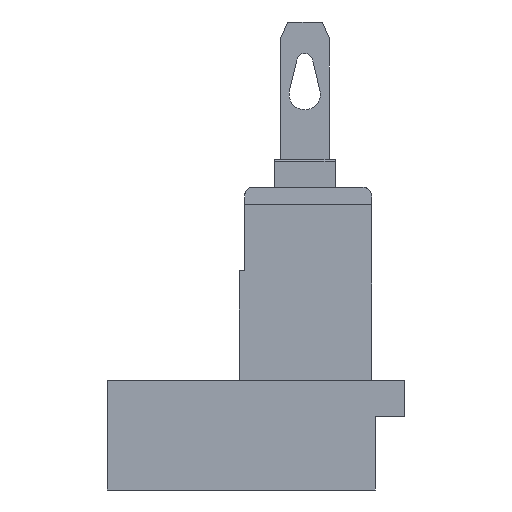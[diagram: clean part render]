
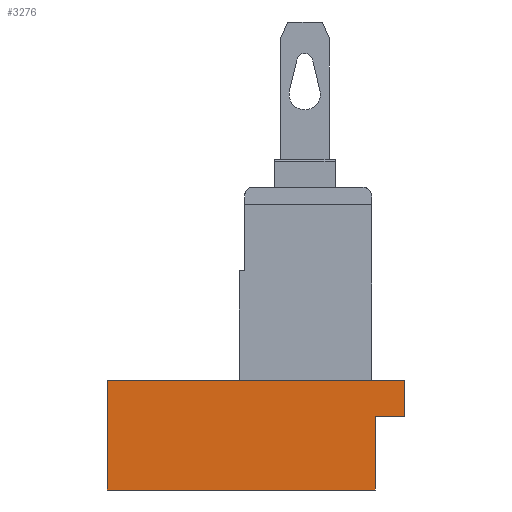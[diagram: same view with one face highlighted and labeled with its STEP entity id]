
A CAD part, left-side view. The second image highlights one B-rep face of the part: STEP entity #3276.
In plain terms, the highlighted planar face has unit normal (-1, 0, 0).
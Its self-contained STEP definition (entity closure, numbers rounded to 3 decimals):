
#3276 = ADVANCED_FACE('',(#3277),#3291,.T.);
#3277 = FACE_BOUND('',#3278,.T.);
#3278 = EDGE_LOOP('',(#3279,#3302,#3318,#3334,#3350,#3366));
#3279 = ORIENTED_EDGE('',*,*,#3280,.T.);
#3280 = EDGE_CURVE('',#3281,#3283,#3285,.T.);
#3281 = VERTEX_POINT('',#3282);
#3282 = CARTESIAN_POINT('',(0.,0.,0.));
#3283 = VERTEX_POINT('',#3284);
#3284 = CARTESIAN_POINT('',(0.,0.,4.2));
#3285 = SURFACE_CURVE('',#3286,(#3290),.PCURVE_S1.);
#3286 = LINE('',#3287,#3288);
#3287 = CARTESIAN_POINT('',(0.,0.,0.));
#3288 = VECTOR('',#3289,1.);
#3289 = DIRECTION('',(0.,0.,1.));
#3290 = PCURVE('',#3291,#3296);
#3291 = PLANE('',#3292);
#3292 = AXIS2_PLACEMENT_3D('',#3293,#3294,#3295);
#3293 = CARTESIAN_POINT('',(0.,24.099,-12.6));
#3294 = DIRECTION('',(-1.,0.,0.));
#3295 = DIRECTION('',(0.,-1.,0.));
#3296 = DEFINITIONAL_REPRESENTATION('',(#3297),#3301);
#3297 = LINE('',#3298,#3299);
#3298 = CARTESIAN_POINT('',(24.099,12.6));
#3299 = VECTOR('',#3300,1.);
#3300 = DIRECTION('',(0.,1.));
#3301 = ( GEOMETRIC_REPRESENTATION_CONTEXT(2) 
PARAMETRIC_REPRESENTATION_CONTEXT() REPRESENTATION_CONTEXT('2D SPACE',''
  ) );
#3302 = ORIENTED_EDGE('',*,*,#3303,.T.);
#3303 = EDGE_CURVE('',#3283,#3304,#3306,.T.);
#3304 = VERTEX_POINT('',#3305);
#3305 = CARTESIAN_POINT('',(0.,-1.7,4.2));
#3306 = SURFACE_CURVE('',#3307,(#3311),.PCURVE_S1.);
#3307 = LINE('',#3308,#3309);
#3308 = CARTESIAN_POINT('',(0.,0.,4.2));
#3309 = VECTOR('',#3310,1.);
#3310 = DIRECTION('',(0.,-1.,0.));
#3311 = PCURVE('',#3291,#3312);
#3312 = DEFINITIONAL_REPRESENTATION('',(#3313),#3317);
#3313 = LINE('',#3314,#3315);
#3314 = CARTESIAN_POINT('',(24.099,16.8));
#3315 = VECTOR('',#3316,1.);
#3316 = DIRECTION('',(1.,0.));
#3317 = ( GEOMETRIC_REPRESENTATION_CONTEXT(2) 
PARAMETRIC_REPRESENTATION_CONTEXT() REPRESENTATION_CONTEXT('2D SPACE',''
  ) );
#3318 = ORIENTED_EDGE('',*,*,#3319,.T.);
#3319 = EDGE_CURVE('',#3304,#3320,#3322,.T.);
#3320 = VERTEX_POINT('',#3321);
#3321 = CARTESIAN_POINT('',(0.,-1.7,6.3));
#3322 = SURFACE_CURVE('',#3323,(#3327),.PCURVE_S1.);
#3323 = LINE('',#3324,#3325);
#3324 = CARTESIAN_POINT('',(0.,-1.7,4.2));
#3325 = VECTOR('',#3326,1.);
#3326 = DIRECTION('',(0.,0.,1.));
#3327 = PCURVE('',#3291,#3328);
#3328 = DEFINITIONAL_REPRESENTATION('',(#3329),#3333);
#3329 = LINE('',#3330,#3331);
#3330 = CARTESIAN_POINT('',(25.799,16.8));
#3331 = VECTOR('',#3332,1.);
#3332 = DIRECTION('',(0.,1.));
#3333 = ( GEOMETRIC_REPRESENTATION_CONTEXT(2) 
PARAMETRIC_REPRESENTATION_CONTEXT() REPRESENTATION_CONTEXT('2D SPACE',''
  ) );
#3334 = ORIENTED_EDGE('',*,*,#3335,.T.);
#3335 = EDGE_CURVE('',#3320,#3336,#3338,.T.);
#3336 = VERTEX_POINT('',#3337);
#3337 = CARTESIAN_POINT('',(0.,15.4,6.3));
#3338 = SURFACE_CURVE('',#3339,(#3343),.PCURVE_S1.);
#3339 = LINE('',#3340,#3341);
#3340 = CARTESIAN_POINT('',(0.,-1.7,6.3));
#3341 = VECTOR('',#3342,1.);
#3342 = DIRECTION('',(0.,1.,0.));
#3343 = PCURVE('',#3291,#3344);
#3344 = DEFINITIONAL_REPRESENTATION('',(#3345),#3349);
#3345 = LINE('',#3346,#3347);
#3346 = CARTESIAN_POINT('',(25.799,18.9));
#3347 = VECTOR('',#3348,1.);
#3348 = DIRECTION('',(-1.,0.));
#3349 = ( GEOMETRIC_REPRESENTATION_CONTEXT(2) 
PARAMETRIC_REPRESENTATION_CONTEXT() REPRESENTATION_CONTEXT('2D SPACE',''
  ) );
#3350 = ORIENTED_EDGE('',*,*,#3351,.T.);
#3351 = EDGE_CURVE('',#3336,#3352,#3354,.T.);
#3352 = VERTEX_POINT('',#3353);
#3353 = CARTESIAN_POINT('',(0.,15.4,0.));
#3354 = SURFACE_CURVE('',#3355,(#3359),.PCURVE_S1.);
#3355 = LINE('',#3356,#3357);
#3356 = CARTESIAN_POINT('',(0.,15.4,6.3));
#3357 = VECTOR('',#3358,1.);
#3358 = DIRECTION('',(0.,0.,-1.));
#3359 = PCURVE('',#3291,#3360);
#3360 = DEFINITIONAL_REPRESENTATION('',(#3361),#3365);
#3361 = LINE('',#3362,#3363);
#3362 = CARTESIAN_POINT('',(8.699,18.9));
#3363 = VECTOR('',#3364,1.);
#3364 = DIRECTION('',(0.,-1.));
#3365 = ( GEOMETRIC_REPRESENTATION_CONTEXT(2) 
PARAMETRIC_REPRESENTATION_CONTEXT() REPRESENTATION_CONTEXT('2D SPACE',''
  ) );
#3366 = ORIENTED_EDGE('',*,*,#3367,.T.);
#3367 = EDGE_CURVE('',#3352,#3281,#3368,.T.);
#3368 = SURFACE_CURVE('',#3369,(#3373),.PCURVE_S1.);
#3369 = LINE('',#3370,#3371);
#3370 = CARTESIAN_POINT('',(0.,15.4,0.));
#3371 = VECTOR('',#3372,1.);
#3372 = DIRECTION('',(0.,-1.,0.));
#3373 = PCURVE('',#3291,#3374);
#3374 = DEFINITIONAL_REPRESENTATION('',(#3375),#3379);
#3375 = LINE('',#3376,#3377);
#3376 = CARTESIAN_POINT('',(8.699,12.6));
#3377 = VECTOR('',#3378,1.);
#3378 = DIRECTION('',(1.,0.));
#3379 = ( GEOMETRIC_REPRESENTATION_CONTEXT(2) 
PARAMETRIC_REPRESENTATION_CONTEXT() REPRESENTATION_CONTEXT('2D SPACE',''
  ) );
